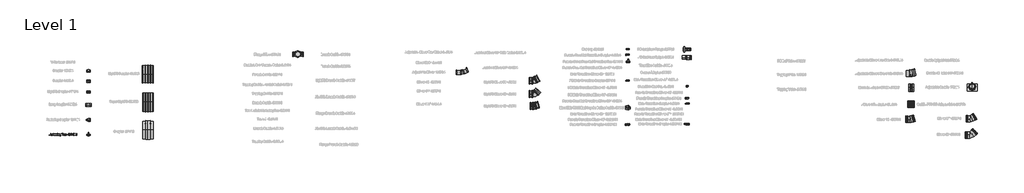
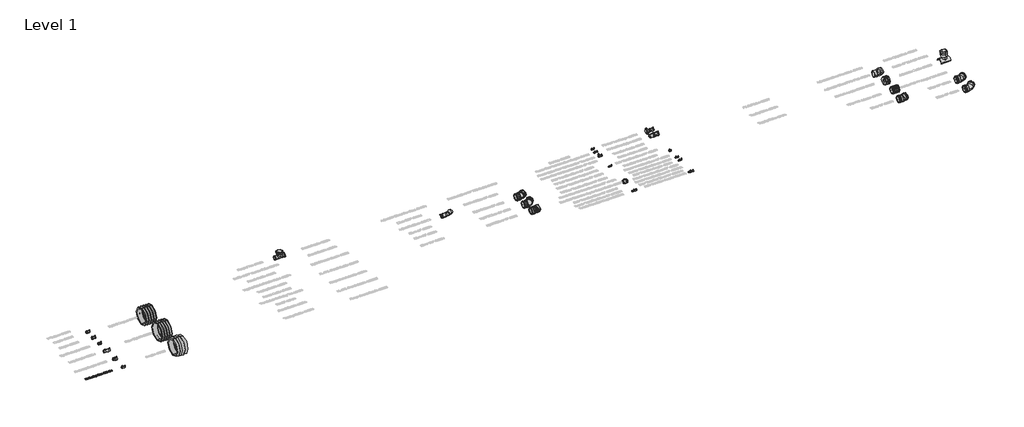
# One storey, part 1 of 38: 33 pipe fittings, 1 proxy.
"""IFC4 building model written with IfcOpenShell, lengths in millimetres."""

from ifc_helpers import new_model, si_unit, origin, origin_with_axes, place, context, project, spatial, polyline, outline, extrude, transform, mapped, element, save
from components import pipe_fitting_def14755, pipe_fitting_6e503bb0, pipe_fitting_ae31b29e, pipe_fitting_21f630c9, pipe_fitting_6928912b, pipe_fitting_00af0812, pipe_fitting_85c0b7c4, pipe_fitting_199b5d55, pipe_fitting_6a6b5253, pipe_fitting_9f1613c2, pipe_fitting_e99ab456, pipe_fitting_df91765d, pipe_fitting_0589dd84, pipe_fitting_ef86ea76, pipe_fitting_d52059ed, pipe_fitting_4f1da88c, pipe_fitting_ede6b6a5, pipe_fitting_ba987658, pipe_fitting_37475e8d, pipe_fitting_e051d7a7, pipe_fitting_1c2d9a35, pipe_fitting_cfaffc8d, pipe_fitting_a4dbb267, pipe_fitting_78b5cd10, pipe_fitting_f3134fd4, pipe_fitting_a7ee65fd, pipe_fitting_4fac7fd4, pipe_fitting_46703393, pipe_fitting_9c215ce0, pipe_fitting_ad679aff, pipe_fitting_ee337b03, pipe_fitting_7a712ac6, pipe_fitting_be4f198a

model = new_model("IFC4")

# Units and contexts
model_context = context("Model", 3, world=origin())
ifc_project = project(units=[si_unit("LENGTHUNIT", "METRE", prefix="MILLI")], contexts=[model_context])

# Site, building, storey
site = spatial("IfcSite", under=ifc_project)
building = spatial("IfcBuilding", under=site)
storey = spatial("IfcBuildingStorey", under=building, Name="Level 1", Elevation=0.0)

# Proxy
placement = place(None, origin())
element("IfcBuildingElementProxy", 1, Name="100 mm Arial", ObjectType="100 mm Arial", at=placement, inside=storey, context=model_context, shape_type="SweptSolid", body=[
    extrude(outline(polyline([(846.0433016, 2654.3643675), (846.0433016, 2713.4412905), (871.5000324, 2713.4412905), (883.3197439, 2711.8475405), (889.7812824, 2706.2081175), (892.1971478, 2697.2730213), (888.1947439, 2686.6287905), (875.8269555, 2681.1335982), (880.0240709, 2677.9749444), (886.0096478, 2670.3739828), (895.8606093, 2654.3643675), (887.2788786, 2654.3643675), (879.5913786, 2666.6095598), (874.0384939, 2674.715329), (870.1370516, 2678.5446559), (866.6250324, 2679.9509059), (862.3413786, 2680.2105213), (853.427917, 2680.2105213), (853.427917, 2654.3643675), (846.0433016, 2654.3643675)]), holes=[polyline([(853.427917, 2687.5951367), (869.9567632, 2687.5951367), (878.3870516, 2688.6408098), (883.1755132, 2691.9869636), (884.8125324, 2696.9989828), (881.6899363, 2703.5037905), (871.8173401, 2706.0566752), (853.427917, 2706.0566752), (853.427917, 2687.5951367)])]), origin_with_axes(), (0.0, 0.0, 1.0), 5.0),
    extrude(outline(polyline([(934.5721478, 2667.2874444), (941.8125324, 2666.3643675), (935.0408978, 2656.8307136), (922.427917, 2653.4412905), (913.7632536, 2654.90343), (907.0961863, 2659.2898482), (902.8449843, 2666.3156896), (901.427917, 2675.6960982), (902.8594074, 2685.3920117), (907.1538786, 2692.6432136), (913.7308016, 2697.1648482), (922.0096478, 2698.6720598), (930.0306814, 2697.168454), (936.4399363, 2692.6576367), (940.6424603, 2685.4208578), (942.0433016, 2675.7393675), (942.0000324, 2673.7489828), (908.8125324, 2673.7489828), (913.0601286, 2664.1576367), (922.5721478, 2660.8259059), (929.8125324, 2662.3691752), (934.5721478, 2667.2874444)]), holes=[polyline([(908.8125324, 2681.1335982), (934.6586863, 2681.1335982), (931.7019555, 2687.8259059), (921.9808016, 2691.2874444), (912.8870516, 2688.5254252), (908.8125324, 2681.1335982)])]), origin_with_axes(), (0.0, 0.0, 1.0), 5.0),
    extrude(outline(polyline([(976.1971478, 2654.3643675), (976.1971478, 2661.3307136), (971.3113305, 2655.4136463), (964.5577247, 2653.4412905), (955.4134939, 2656.2970598), (948.9519555, 2664.2658098), (946.6586863, 2676.0134059), (948.771667, 2687.7682136), (955.1033978, 2695.8595598), (964.5288786, 2698.6720598), (971.3365709, 2696.6600405), (976.1971478, 2691.4316752), (976.1971478, 2713.4412905), (983.5817632, 2713.4412905), (983.5817632, 2654.3643675), (976.1971478, 2654.3643675)]), holes=[polyline([(954.0433016, 2676.0422521), (957.3750324, 2664.6119636), (965.2356093, 2660.8259059), (973.0024363, 2664.4388867), (976.1971478, 2675.4797521), (972.9447439, 2687.465329), (964.9327247, 2691.2874444), (957.1586863, 2687.6167713), (954.0433016, 2676.0422521)])]), origin_with_axes(), (0.0, 0.0, 1.0), 5.0),
    extrude(outline(polyline([(1022.3509939, 2654.3643675), (1022.3509939, 2661.8210982), (1016.5673401, 2655.5362425), (1009.0240709, 2653.4412905), (1002.0793593, 2654.9124444), (997.2908978, 2658.6047521), (995.0913786, 2664.0422521), (994.6586863, 2670.9076367), (994.6586863, 2697.7489828), (1002.0433016, 2697.7489828), (1002.0433016, 2674.3835982), (1002.490417, 2666.8547521), (1005.4110901, 2662.434079), (1010.9134939, 2660.8259059), (1017.0793593, 2662.4701367), (1021.1538786, 2666.9485021), (1022.3509939, 2675.1768675), (1022.3509939, 2697.7489828), (1029.7356093, 2697.7489828), (1029.7356093, 2654.3643675), (1022.3509939, 2654.3643675)])), origin_with_axes(), (0.0, 0.0, 1.0), 5.0),
    extrude(outline(polyline([(1067.5817632, 2670.0566752), (1074.9663786, 2669.1335982), (1069.0384939, 2657.6023482), (1057.3269555, 2653.4412905), (1049.4717872, 2654.8926127), (1043.3293593, 2659.246579), (1039.3648161, 2666.3120838), (1038.0433016, 2675.8980213), (1040.3005132, 2688.1648482), (1047.1803209, 2696.0470598), (1057.2259939, 2698.6720598), (1068.4543593, 2695.0662905), (1074.0433016, 2684.8259059), (1066.6586863, 2683.902829), (1063.2332055, 2689.434079), (1057.2836863, 2691.2874444), (1048.7235901, 2687.6384059), (1045.427917, 2676.0999444), (1048.6514747, 2664.4533098), (1057.0817632, 2660.8259059), (1064.0408978, 2663.090329), (1067.5817632, 2670.0566752)])), origin_with_axes(), (0.0, 0.0, 1.0), 5.0),
    extrude(outline(polyline([(1081.427917, 2706.0566752), (1081.427917, 2713.4412905), (1088.8125324, 2713.4412905), (1088.8125324, 2706.0566752), (1081.427917, 2706.0566752)])), origin_with_axes(), (0.0, 0.0, 1.0), 5.0),
    extrude(outline(polyline([(1081.427917, 2654.3643675), (1081.427917, 2697.7489828), (1088.8125324, 2697.7489828), (1088.8125324, 2654.3643675), (1081.427917, 2654.3643675)])), origin_with_axes(), (0.0, 0.0, 1.0), 5.0),
    extrude(outline(polyline([(1099.8894555, 2654.3643675), (1099.8894555, 2697.7489828), (1107.2740709, 2697.7489828), (1107.2740709, 2691.6912905), (1112.9207055, 2696.9268675), (1120.6298401, 2698.6720598), (1127.6033978, 2697.2658098), (1132.3630132, 2693.5735021), (1134.5769555, 2688.1432136), (1134.9663786, 2681.0037905), (1134.9663786, 2654.3643675), (1127.5817632, 2654.3643675), (1127.5817632, 2680.0085982), (1126.7308016, 2686.5422521), (1123.7235901, 2689.996579), (1118.6538786, 2691.2874444), (1110.6418593, 2688.3884059), (1107.2740709, 2677.3835982), (1107.2740709, 2654.3643675), (1099.8894555, 2654.3643675)])), origin_with_axes(), (0.0, 0.0, 1.0), 5.0),
    extrude(outline(polyline([(1143.2740709, 2650.6720598), (1150.6586863, 2649.7489828), (1153.052917, 2645.8547521), (1160.2211863, 2644.2105213), (1167.7788786, 2646.0710982), (1171.3846478, 2651.2922521), (1171.8894555, 2659.902829), (1160.3509939, 2654.3643675), (1152.7374122, 2655.9761463), (1147.0601286, 2660.8114828), (1142.3509939, 2676.2730213), (1144.4639747, 2687.7177328), (1150.5793593, 2695.8162905), (1159.990417, 2698.6720598), (1166.5781574, 2697.0566752), (1171.8894555, 2692.2105213), (1171.8894555, 2697.7489828), (1179.2740709, 2697.7489828), (1179.2740709, 2660.2922521), (1177.2548401, 2645.9485021), (1170.8582055, 2639.277829), (1160.0769555, 2636.8259059), (1147.7957055, 2640.2802328), (1143.2740709, 2650.6720598)]), holes=[polyline([(1149.7356093, 2676.777829), (1152.8870516, 2665.3475405), (1160.7981093, 2661.7489828), (1168.6947439, 2665.3259059), (1171.8894555, 2676.5614828), (1168.6009939, 2687.5735021), (1160.6827247, 2691.2874444), (1152.9303209, 2687.6311944), (1149.7356093, 2676.777829)])]), origin_with_axes(), (0.0, 0.0, 1.0), 5.0),
    extrude(outline(polyline([(1229.1202247, 2654.3643675), (1229.1202247, 2706.0566752), (1209.7356093, 2706.0566752), (1209.7356093, 2713.4412905), (1255.8894555, 2713.4412905), (1255.8894555, 2706.0566752), (1236.5048401, 2706.0566752), (1236.5048401, 2654.3643675), (1229.1202247, 2654.3643675)])), origin_with_axes(), (0.0, 0.0, 1.0), 5.0),
    extrude(outline(polyline([(1293.6490709, 2667.2874444), (1300.8894555, 2666.3643675), (1294.1178209, 2656.8307136), (1281.5048401, 2653.4412905), (1272.8401766, 2654.90343), (1266.1731093, 2659.2898482), (1261.9219074, 2666.3156896), (1260.5048401, 2675.6960982), (1261.9363305, 2685.3920117), (1266.2308016, 2692.6432136), (1272.8077247, 2697.1648482), (1281.0865709, 2698.6720598), (1289.1076045, 2697.168454), (1295.5168593, 2692.6576367), (1299.7193834, 2685.4208578), (1301.1202247, 2675.7393675), (1301.0769555, 2673.7489828), (1267.8894555, 2673.7489828), (1272.1370516, 2664.1576367), (1281.6490709, 2660.8259059), (1288.8894555, 2662.3691752), (1293.6490709, 2667.2874444)]), holes=[polyline([(1267.8894555, 2681.1335982), (1293.7356093, 2681.1335982), (1290.7788786, 2687.8259059), (1281.0577247, 2691.2874444), (1271.9639747, 2688.5254252), (1267.8894555, 2681.1335982)])]), origin_with_axes(), (0.0, 0.0, 1.0), 5.0),
    extrude(outline(polyline([(1338.8798401, 2667.2874444), (1346.1202247, 2666.3643675), (1339.3485901, 2656.8307136), (1326.7356093, 2653.4412905), (1318.0709459, 2654.90343), (1311.4038786, 2659.2898482), (1307.1526766, 2666.3156896), (1305.7356093, 2675.6960982), (1307.1670997, 2685.3920117), (1311.4615709, 2692.6432136), (1318.0384939, 2697.1648482), (1326.3173401, 2698.6720598), (1334.3383738, 2697.168454), (1340.7476286, 2692.6576367), (1344.9501526, 2685.4208578), (1346.3509939, 2675.7393675), (1346.3077247, 2673.7489828), (1313.1202247, 2673.7489828), (1317.3678209, 2664.1576367), (1326.8798401, 2660.8259059), (1334.1202247, 2662.3691752), (1338.8798401, 2667.2874444)]), holes=[polyline([(1313.1202247, 2681.1335982), (1338.9663786, 2681.1335982), (1336.0096478, 2687.8259059), (1326.2884939, 2691.2874444), (1317.1947439, 2688.5254252), (1313.1202247, 2681.1335982)])]), origin_with_axes(), (0.0, 0.0, 1.0), 5.0),
    extrude(outline(polyline([(1398.9663786, 2654.3643675), (1398.9663786, 2668.2105213), (1372.1971478, 2668.2105213), (1372.1971478, 2675.5951367), (1400.8125324, 2712.5182136), (1406.3509939, 2712.5182136), (1406.3509939, 2675.5951367), (1413.7356093, 2675.5951367), (1413.7356093, 2668.2105213), (1406.3509939, 2668.2105213), (1406.3509939, 2654.3643675), (1398.9663786, 2654.3643675)]), holes=[polyline([(1398.9663786, 2675.5951367), (1398.9663786, 2698.4124444), (1381.2836863, 2675.5951367), (1398.9663786, 2675.5951367)])]), origin_with_axes(), (0.0, 0.0, 1.0), 5.0),
    extrude(outline(polyline([(1421.1202247, 2669.1335982), (1428.5048401, 2670.0566752), (1431.8221478, 2663.0110021), (1438.1106093, 2660.8259059), (1444.0889747, 2662.2321559), (1448.1418593, 2665.9893675), (1450.5577247, 2672.4076367), (1451.6250324, 2680.9749444), (1445.6755132, 2676.8210982), (1437.5769555, 2674.6720598), (1425.2380132, 2679.9220598), (1420.1971478, 2693.7537905), (1425.4832055, 2708.0326367), (1438.7308016, 2713.4412905), (1449.2524363, 2710.3547521), (1456.4928209, 2701.5566752), (1458.9663786, 2685.027829), (1456.5000324, 2667.0927328), (1449.1658978, 2656.9316752), (1437.7644555, 2653.4412905), (1426.4134939, 2657.559079), (1421.1202247, 2669.1335982)]), holes=[polyline([(1451.5817632, 2693.9268675), (1448.3942632, 2702.7826367), (1439.927917, 2706.0566752), (1431.0433016, 2702.5302328), (1427.5817632, 2693.3932136), (1430.8558016, 2685.2081175), (1439.7259939, 2682.0566752), (1448.2428209, 2685.2081175), (1451.5817632, 2693.9268675)])]), origin_with_axes(), (0.0, 0.0, 1.0), 5.0),
    extrude(outline(polyline([(1493.1202247, 2654.3643675), (1485.7356093, 2654.3643675), (1485.7356093, 2700.402829), (1478.740417, 2695.4196559), (1470.9663786, 2691.6912905), (1470.9663786, 2698.6720598), (1481.7908978, 2705.5807136), (1488.3606093, 2713.4412905), (1493.1202247, 2713.4412905), (1493.1202247, 2654.3643675)])), origin_with_axes(), (0.0, 0.0, 1.0), 5.0),
    extrude(outline(polyline([(1534.6586863, 2654.3643675), (1534.6586863, 2668.2105213), (1507.8894555, 2668.2105213), (1507.8894555, 2675.5951367), (1536.5048401, 2712.5182136), (1542.0433016, 2712.5182136), (1542.0433016, 2675.5951367), (1549.427917, 2675.5951367), (1549.427917, 2668.2105213), (1542.0433016, 2668.2105213), (1542.0433016, 2654.3643675), (1534.6586863, 2654.3643675)]), holes=[polyline([(1534.6586863, 2675.5951367), (1534.6586863, 2698.4124444), (1516.9759939, 2675.5951367), (1534.6586863, 2675.5951367)])]), origin_with_axes(), (0.0, 0.0, 1.0), 5.0),
    extrude(outline(polyline([(1555.8894555, 2683.4268675), (1558.0601286, 2700.4244636), (1564.5072439, 2710.2249444), (1575.2740709, 2713.4412905), (1583.8990709, 2711.5374444), (1589.8558016, 2706.0494636), (1593.3173401, 2697.309079), (1594.6586863, 2683.4268675), (1592.5096478, 2666.5013867), (1586.084167, 2656.6792713), (1575.2740709, 2653.4412905), (1567.6009939, 2654.8475405), (1561.7740709, 2659.0662905), (1557.3606093, 2669.0578771), (1555.8894555, 2683.4268675)]), holes=[polyline([(1563.2740709, 2683.4412905), (1566.7356093, 2665.1023482), (1575.2740709, 2660.8259059), (1583.8125324, 2665.1167713), (1587.2740709, 2683.4412905), (1583.927917, 2701.5710982), (1575.1875324, 2706.0566752), (1566.8509939, 2702.1047521), (1563.2740709, 2683.4412905)])]), origin_with_axes(), (0.0, 0.0, 1.0), 5.0),
    extrude(outline(polyline([(1625.1202247, 2654.3643675), (1625.1202247, 2668.2105213), (1598.3509939, 2668.2105213), (1598.3509939, 2675.5951367), (1626.9663786, 2712.5182136), (1632.5048401, 2712.5182136), (1632.5048401, 2675.5951367), (1639.8894555, 2675.5951367), (1639.8894555, 2668.2105213), (1632.5048401, 2668.2105213), (1632.5048401, 2654.3643675), (1625.1202247, 2654.3643675)]), holes=[polyline([(1625.1202247, 2675.5951367), (1625.1202247, 2698.4124444), (1607.4375324, 2675.5951367), (1625.1202247, 2675.5951367)])]), origin_with_axes(), (0.0, 0.0, 1.0), 5.0),
])

# Pipe fittings
pipe_fitting_shape = pipe_fitting_def14755(model_context)
element("IfcPipeFitting", 2, ObjectType="Plumbing_Pipe-Fittings_Plasson_PE-Male-Transition-Coupler_497104 : Plumbing_Pipe-Fittings_Plasson_PE-Male-Transition-Coupler_497104", at=placement, inside=storey, context=model_context, shape_type="MappedRepresentation", body=[
    mapped(pipe_fitting_shape, transform((17331.354929, 4220.135434, 0.0), x_axis=(1.0, 0.0, 0.0), y_axis=(0.0, 1.0, 0.0), z_axis=(0.0, 0.0, 1.0))),
])
pipe_fitting_2_shape = pipe_fitting_6e503bb0(model_context)
element("IfcPipeFitting", 3, ObjectType="Plumbing_Pipe-Fittings_Plasson_Reducing-Tee_491404 : Plumbing_Pipe-Fittings_Plasson_Reducing-Tee_491404", at=placement, inside=storey, context=model_context, shape_type="MappedRepresentation", body=[
    mapped(pipe_fitting_2_shape, transform((1965.7317214, 2668.389293, 0.0), x_axis=(1.0, 0.0, 0.0), y_axis=(0.0, 1.0, 0.0), z_axis=(0.0, 0.0, 1.0))),
])
pipe_fitting_3_shape = pipe_fitting_ae31b29e(model_context)
element("IfcPipeFitting", 4, ObjectType="Plumbing_Pipe-Fittings_Plasson_Super-LightFit_4601S3 : Plumbing_Pipe-Fittings_Plasson_Super-LightFit_4601S3", at=placement, inside=storey, context=model_context, shape_type="MappedRepresentation", body=[
    mapped(pipe_fitting_3_shape, transform((3658.347936, 3603.6292246, 0.0), x_axis=(1.0, 0.0, 0.0), y_axis=(0.0, 1.0, 0.0), z_axis=(0.0, 0.0, 1.0))),
])
pipe_fitting_4_shape = pipe_fitting_21f630c9(model_context)
element("IfcPipeFitting", 5, ObjectType="Plumbing_Pipe-Fittings_Plasson_Wastewater-Adjustable-Elbow-PE-to-PVC_4747V4 : Plumbing_Pipe-Fittings_Plasson_Wastewater-Adjustable-Elbow-PE-to-PVC_4747V4", at=placement, inside=storey, context=model_context, shape_type="MappedRepresentation", body=[
    mapped(pipe_fitting_4_shape, transform((25343.3231089, 4417.3312075, 0.0), x_axis=(1.0, 0.0, 0.0), y_axis=(0.0, 1.0, 0.0), z_axis=(0.0, 0.0, 1.0))),
])
pipe_fitting_5_shape = pipe_fitting_6928912b(model_context)
element("IfcPipeFitting", 6, ObjectType="Plumbing_Pipe-Fittings_Plasson_Wastewater-Adjustable-Saddle_475804 : Plumbing_Pipe-Fittings_Plasson_Wastewater-Adjustable-Saddle_475804", at=placement, inside=storey, context=model_context, shape_type="MappedRepresentation", body=[
    mapped(pipe_fitting_5_shape, transform((27132.9707275, 4018.6797077, 0.0), x_axis=(1.0, 0.0, 0.0), y_axis=(0.0, 1.0, 0.0), z_axis=(0.0, 0.0, 1.0))),
])
pipe_fitting_6_shape = pipe_fitting_00af0812(model_context)
element("IfcPipeFitting", 7, ObjectType="Plumbing_Pipe-Fittings_Plasson_Wastewater-Elbow-15_473704 : Plumbing_Pipe-Fittings_Plasson_Wastewater-Elbow-15_473704", at=placement, inside=storey, context=model_context, shape_type="MappedRepresentation", body=[
    mapped(pipe_fitting_6_shape, transform((25369.0959603, 3114.0366498, 0.0), x_axis=(1.0, 0.0, 0.0), y_axis=(0.0, 1.0, 0.0), z_axis=(0.0, 0.0, 1.0))),
])
pipe_fitting_7_shape = pipe_fitting_85c0b7c4(model_context)
element("IfcPipeFitting", 8, ObjectType="Plumbing_Pipe-Fittings_Plasson_Wastewater-Elbow-30_473304 : Plumbing_Pipe-Fittings_Plasson_Wastewater-Elbow-30_473304", at=placement, inside=storey, context=model_context, shape_type="MappedRepresentation", body=[
    mapped(pipe_fitting_7_shape, transform((27102.0315458, 3127.7921473, 0.0), x_axis=(1.0, 0.0, 0.0), y_axis=(0.0, 1.0, 0.0), z_axis=(0.0, 0.0, 1.0))),
])
pipe_fitting_8_shape = pipe_fitting_199b5d55(model_context)
element("IfcPipeFitting", 9, ObjectType="Plumbing_Pipe-Fittings_Plasson_Wastewater-Elbow-45_470604 : Plumbing_Pipe-Fittings_Plasson_Wastewater-Elbow-45_470604", at=placement, inside=storey, context=model_context, shape_type="MappedRepresentation", body=[
    mapped(pipe_fitting_8_shape, transform((27103.7228439, 2662.5163117, 0.0), x_axis=(1.0, 0.0, 0.0), y_axis=(0.0, 1.0, 0.0), z_axis=(0.0, 0.0, 1.0))),
])
pipe_fitting_9_shape = pipe_fitting_6a6b5253(model_context)
element("IfcPipeFitting", 10, ObjectType="Plumbing_Pipe-Fittings_Plasson_Wastewater-Manhole-Adaptor_37020-477207 : Plumbing_Pipe-Fittings_Plasson_Wastewater-Manhole-Adaptor_37020-477207", at=placement, inside=storey, context=model_context, shape_type="MappedRepresentation", body=[
    mapped(pipe_fitting_9_shape, transform((25331.4837174, 4013.963567, 0.0), x_axis=(1.0, 0.0, 0.0), y_axis=(0.0, 1.0, 0.0), z_axis=(0.0, 0.0, 1.0))),
])
pipe_fitting_10_shape = pipe_fitting_9f1613c2(model_context)
element("IfcPipeFitting", 11, ObjectType="Plumbing_Pipe-Fittings_Plasson_Wastewater-PE-to-PVC-Adaptor_4701V4 : Plumbing_Pipe-Fittings_Plasson_Wastewater-PE-to-PVC-Adaptor_4701V4", at=placement, inside=storey, context=model_context, shape_type="MappedRepresentation", body=[
    mapped(pipe_fitting_10_shape, transform((25398.4409176, 3544.4531991, 0.0), x_axis=(1.0, 0.0, 0.0), y_axis=(0.0, 1.0, 0.0), z_axis=(0.0, 0.0, 1.0))),
])
pipe_fitting_11_shape = pipe_fitting_e99ab456(model_context)
element("IfcPipeFitting", 12, ObjectType="Plumbing_Pipe-Fittings_Plasson_Long-Coupler_4901L4 : Plumbing_Pipe-Fittings_Plasson_Long-Coupler_4901L4", at=placement, inside=storey, context=model_context, shape_type="MappedRepresentation", body=[
    mapped(pipe_fitting_11_shape, transform((1966.1345558, 3524.1719995, 0.0), x_axis=(1.0, 0.0, 0.0), y_axis=(0.0, 1.0, 0.0), z_axis=(0.0, 0.0, 1.0))),
])
pipe_fitting_12_shape = pipe_fitting_df91765d(model_context)
element("IfcPipeFitting", 13, ObjectType="Plumbing_Pipe-Fittings_Plasson_Coupler_490104 : Plumbing_Pipe-Fittings_Plasson_Coupler_490104", at=placement, inside=storey, context=model_context, shape_type="MappedRepresentation", body=[
    mapped(pipe_fitting_12_shape, transform((1966.1345558, 4199.4920948, 0.0), x_axis=(1.0, 0.0, 0.0), y_axis=(0.0, 1.0, 0.0), z_axis=(0.0, 0.0, 1.0))),
])
pipe_fitting_13_shape = pipe_fitting_0589dd84(model_context)
element("IfcPipeFitting", 14, ObjectType="Plumbing_Pipe-Fittings_Plasson_Male-Transition-Coupler_492104N : Plumbing_Pipe-Fittings_Plasson_Male-Transition-Coupler_492104N", at=placement, inside=storey, context=model_context, shape_type="MappedRepresentation", body=[
    mapped(pipe_fitting_13_shape, transform((19035.2669001, 2977.0014128, 0.0), x_axis=(1.0, 0.0, 0.0), y_axis=(0.0, 1.0, 0.0), z_axis=(0.0, 0.0, 1.0))),
])
pipe_fitting_14_shape = pipe_fitting_ef86ea76(model_context)
element("IfcPipeFitting", 15, ObjectType="Plumbing_Pipe-Fittings_Plasson_Female-Transition-Coupler_493104N : Plumbing_Pipe-Fittings_Plasson_Female-Transition-Coupler_493104N", at=placement, inside=storey, context=model_context, shape_type="MappedRepresentation", body=[
    mapped(pipe_fitting_14_shape, transform((17341.6037579, 2966.8960241, 0.0), x_axis=(1.0, 0.0, 0.0), y_axis=(0.0, 1.0, 0.0), z_axis=(0.0, 0.0, 1.0))),
])
pipe_fitting_15_shape = pipe_fitting_d52059ed(model_context)
element("IfcPipeFitting", 16, ObjectType="Plumbing_Pipe-Fittings_Plasson_Reducing-Coupler_491104 : Plumbing_Pipe-Fittings_Plasson_Reducing-Coupler_491104", at=placement, inside=storey, context=model_context, shape_type="MappedRepresentation", body=[
    mapped(pipe_fitting_15_shape, transform((1958.308174, 3095.9927762, 0.0), x_axis=(1.0, 0.0, 0.0), y_axis=(0.0, 1.0, 0.0), z_axis=(0.0, 0.0, 1.0))),
])
pipe_fitting_16_shape = pipe_fitting_4f1da88c(model_context)
element("IfcPipeFitting", 17, ObjectType="Plumbing_Pipe-Fittings_Plasson_Adjustable-Elbow_4947C4 : Plumbing_Pipe-Fittings_Plasson_Adjustable-Elbow_4947C4", at=placement, inside=storey, context=model_context, shape_type="MappedRepresentation", body=[
    mapped(pipe_fitting_16_shape, transform((12611.4555155, 4446.674262, 0.0), x_axis=(1.0, 0.0, 0.0), y_axis=(0.0, 1.0, 0.0), z_axis=(0.0, 0.0, 1.0))),
])
pipe_fitting_17_shape = pipe_fitting_ede6b6a5(model_context)
element("IfcPipeFitting", 18, ObjectType="Plumbing_Pipe-Fittings_Plasson_Coupler_450104 : Plumbing_Pipe-Fittings_Plasson_Coupler_450104", at=placement, inside=storey, context=model_context, shape_type="MappedRepresentation", body=[
    mapped(pipe_fitting_17_shape, transform((1966.1345558, 4495.1476485, 0.0), x_axis=(1.0, 0.0, 0.0), y_axis=(0.0, 1.0, 0.0), z_axis=(0.0, 0.0, 1.0))),
])
pipe_fitting_18_shape = pipe_fitting_ba987658(model_context)
element("IfcPipeFitting", 19, ObjectType="Plumbing_Pipe-Fittings_Plasson_Coupler_490103 : Plumbing_Pipe-Fittings_Plasson_Coupler_490103", at=placement, inside=storey, context=model_context, shape_type="MappedRepresentation", body=[
    mapped(pipe_fitting_18_shape, transform((3664.0146027, 2806.7756051, 0.0), x_axis=(1.0, 0.0, 0.0), y_axis=(0.0, 1.0, 0.0), z_axis=(0.0, 0.0, 1.0))),
])
pipe_fitting_19_shape = pipe_fitting_37475e8d(model_context)
element("IfcPipeFitting", 20, ObjectType="Plumbing_Pipe-Fittings_Plasson_End-Cap_491204 : Plumbing_Pipe-Fittings_Plasson_End-Cap_491204", at=placement, inside=storey, context=model_context, shape_type="MappedRepresentation", body=[
    mapped(pipe_fitting_19_shape, transform((17322.8138699, 5111.6493031, 0.0), x_axis=(1.0, 0.0, 0.0), y_axis=(0.0, 1.0, 0.0), z_axis=(0.0, 0.0, 1.0))),
])
pipe_fitting_20_shape = pipe_fitting_e051d7a7(model_context)
element("IfcPipeFitting", 21, ObjectType="Plumbing_Pipe-Fittings_Plasson_Female-Free-Nut-Transition-Coupler_494104 : Plumbing_Pipe-Fittings_Plasson_Female-Free-Nut-Transition-Coupler_494104", at=placement, inside=storey, context=model_context, shape_type="MappedRepresentation", body=[
    mapped(pipe_fitting_20_shape, transform((17319.3266792, 4956.6791157, 0.0), x_axis=(1.0, 0.0, 0.0), y_axis=(0.0, 1.0, 0.0), z_axis=(0.0, 0.0, 1.0))),
])
pipe_fitting_21_shape = pipe_fitting_1c2d9a35(model_context)
element("IfcPipeFitting", 22, ObjectType="Plumbing_Pipe-Fittings_Plasson_Female-Transition-Coupler_493104 : Plumbing_Pipe-Fittings_Plasson_Female-Transition-Coupler_493104", at=placement, inside=storey, context=model_context, shape_type="MappedRepresentation", body=[
    mapped(pipe_fitting_21_shape, transform((19027.344521, 3715.7703294, 0.0), x_axis=(1.0, 0.0, 0.0), y_axis=(0.0, 1.0, 0.0), z_axis=(0.0, 0.0, 1.0))),
])
pipe_fitting_22_shape = pipe_fitting_cfaffc8d(model_context)
element("IfcPipeFitting", 23, ObjectType="Plumbing_Pipe-Fittings_Plasson_Female-Union-Free-Nut-Transition-Tee_494404 : Plumbing_Pipe-Fittings_Plasson_Female-Union-Free-Nut-Transition-Tee_494404", at=placement, inside=storey, context=model_context, shape_type="MappedRepresentation", body=[
    mapped(pipe_fitting_22_shape, transform((17334.482944, 4751.0924709, 0.0), x_axis=(1.0, 0.0, 0.0), y_axis=(0.0, 1.0, 0.0), z_axis=(0.0, 0.0, 1.0))),
])
pipe_fitting_23_shape = pipe_fitting_a4dbb267(model_context)
element("IfcPipeFitting", 24, ObjectType="Plumbing_Pipe-Fittings_Plasson_Flanged-Tee_499404 : Plumbing_Pipe-Fittings_Plasson_Flanged-Tee_499404", at=placement, inside=storey, context=model_context, shape_type="MappedRepresentation", body=[
    mapped(pipe_fitting_23_shape, transform((7931.9052548, 4971.4249729, 0.0), x_axis=(1.0, 0.0, 0.0), y_axis=(0.0, 0.0, 1.0000000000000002), z_axis=(0.0, -1.0000000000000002, 0.0))),
])
pipe_fitting_24_shape = pipe_fitting_78b5cd10(model_context)
element("IfcPipeFitting", 25, ObjectType="Plumbing_Pipe-Fittings_Plasson_LightFit-Coupler_460103 : Plumbing_Pipe-Fittings_Plasson_LightFit-Coupler_460103", at=placement, inside=storey, context=model_context, shape_type="MappedRepresentation", body=[
    mapped(pipe_fitting_24_shape, transform((3656.847936, 4409.1120888, 0.0), x_axis=(1.0, 0.0, 0.0), y_axis=(0.0, 1.0, 0.0), z_axis=(0.0, 0.0, 1.0))),
])
pipe_fitting_25_shape = pipe_fitting_f3134fd4(model_context)
element("IfcPipeFitting", 26, ObjectType="Plumbing_Pipe-Fittings_Plasson_LightFit-Coupler_460104 : Plumbing_Pipe-Fittings_Plasson_LightFit-Coupler_460104", at=placement, inside=storey, context=model_context, shape_type="MappedRepresentation", body=[
    mapped(pipe_fitting_25_shape, transform((1966.1345558, 3893.0735276, 0.0), x_axis=(1.0, 0.0, 0.0), y_axis=(0.0, 1.0, 0.0), z_axis=(0.0, 0.0, 1.0))),
])
pipe_fitting_26_shape = pipe_fitting_a7ee65fd(model_context)
element("IfcPipeFitting", 27, ObjectType="Plumbing_Pipe-Fittings_Plasson_LightFit-Elbow-15_46370 : Plumbing_Pipe-Fittings_Plasson_LightFit-Elbow-15_46370", at=placement, inside=storey, context=model_context, shape_type="MappedRepresentation", body=[
    mapped(pipe_fitting_26_shape, transform((14666.2618516, 3495.4890515, 0.0), x_axis=(1.0, 0.0, 0.0), y_axis=(0.0, 1.0, 0.0), z_axis=(0.0, 0.0, 1.0))),
])
pipe_fitting_27_shape = pipe_fitting_4fac7fd4(model_context)
element("IfcPipeFitting", 28, ObjectType="Plumbing_Pipe-Fittings_Plasson_LightFit-Elbow-30_46330 : Plumbing_Pipe-Fittings_Plasson_LightFit-Elbow-30_46330", at=placement, inside=storey, context=model_context, shape_type="MappedRepresentation", body=[
    mapped(pipe_fitting_27_shape, transform((14658.5497017, 4220.8991265, 0.0), x_axis=(1.0, 0.0, 0.0), y_axis=(0.0, 1.0, 0.0), z_axis=(0.0, 0.0, 1.0))),
])
pipe_fitting_28_shape = pipe_fitting_46703393(model_context)
element("IfcPipeFitting", 29, ObjectType="Plumbing_Pipe-Fittings_Plasson_LightFit-Elbow-45_46060 : Plumbing_Pipe-Fittings_Plasson_LightFit-Elbow-45_46060", at=placement, inside=storey, context=model_context, shape_type="MappedRepresentation", body=[
    mapped(pipe_fitting_28_shape, transform((14673.9242587, 3837.0722836, 0.0), x_axis=(1.0, 0.0, 0.0), y_axis=(0.0, 1.0, 0.0), z_axis=(0.0, 0.0, 1.0))),
])
pipe_fitting_29_shape = pipe_fitting_9c215ce0(model_context)
element("IfcPipeFitting", 30, ObjectType="Plumbing_Pipe-Fittings_Plasson_Male-Transition-Coupler_492104 : Plumbing_Pipe-Fittings_Plasson_Male-Transition-Coupler_492104", at=placement, inside=storey, context=model_context, shape_type="MappedRepresentation", body=[
    mapped(pipe_fitting_29_shape, transform((19036.4191561, 3564.4577062, 0.0), x_axis=(1.0, 0.0, 0.0), y_axis=(0.0, 1.0, 0.0), z_axis=(0.0, 0.0, 1.0))),
])
pipe_fitting_30_shape = pipe_fitting_ad679aff(model_context)
element("IfcPipeFitting", 31, ObjectType="Plumbing_Pipe-Fittings_Plasson_Monolithic-End-Cap_494204 : Plumbing_Pipe-Fittings_Plasson_Monolithic-End-Cap_494204", at=placement, inside=storey, context=model_context, shape_type="MappedRepresentation", body=[
    mapped(pipe_fitting_30_shape, transform((19030.9935067, 4061.6605898, 0.0), x_axis=(-1.0, 0.0, 0.0), y_axis=(0.0, -1.0, 0.0), z_axis=(0.0, 0.0, 1.0))),
])
pipe_fitting_31_shape = pipe_fitting_ee337b03(model_context)
element("IfcPipeFitting", 32, ObjectType="Plumbing_Pipe-Fittings_Plasson_Monolithic-Weld-End-Cap-for-Balloon-Saddle_498304 : Plumbing_Pipe-Fittings_Plasson_Monolithic-Weld-End-Cap-for-Balloon-Saddle_498304", at=placement, inside=storey, context=model_context, shape_type="MappedRepresentation", body=[
    mapped(pipe_fitting_31_shape, transform((17352.1449258, 3443.0216341, 0.0), x_axis=(-1.0, 0.0, 0.0), y_axis=(0.0, -1.0, 0.0), z_axis=(0.0, 0.0, 1.0))),
])
pipe_fitting_32_shape = pipe_fitting_7a712ac6(model_context)
element("IfcPipeFitting", 33, ObjectType="Plumbing_Pipe-Fittings_Plasson_PE-Cast-Iron-Flange-Transition-Coupler_497704 : Plumbing_Pipe-Fittings_Plasson_PE-Cast-Iron-Flange-Transition-Coupler_497704", at=placement, inside=storey, context=model_context, shape_type="MappedRepresentation", body=[
    mapped(pipe_fitting_32_shape, transform((19062.4251925, 5111.8096247, 0.0), x_axis=(1.0, 0.0, 0.0), y_axis=(0.0, 1.0, 0.0), z_axis=(0.0, 0.0, 1.0))),
])
pipe_fitting_33_shape = pipe_fitting_be4f198a(model_context)
element("IfcPipeFitting", 34, ObjectType="Plumbing_Pipe-Fittings_Plasson_PE-Cast-Iron-Spigot-Transition-Coupler_495704 : Plumbing_Pipe-Fittings_Plasson_PE-Cast-Iron-Spigot-Transition-Coupler_495704", at=placement, inside=storey, context=model_context, shape_type="MappedRepresentation", body=[
    mapped(pipe_fitting_33_shape, transform((19060.9170927, 4880.817923, 0.0), x_axis=(1.0, 0.0, 0.0), y_axis=(0.0, 1.0, 0.0), z_axis=(0.0, 0.0, 1.0))),
])

save(model, "model.ifc")
